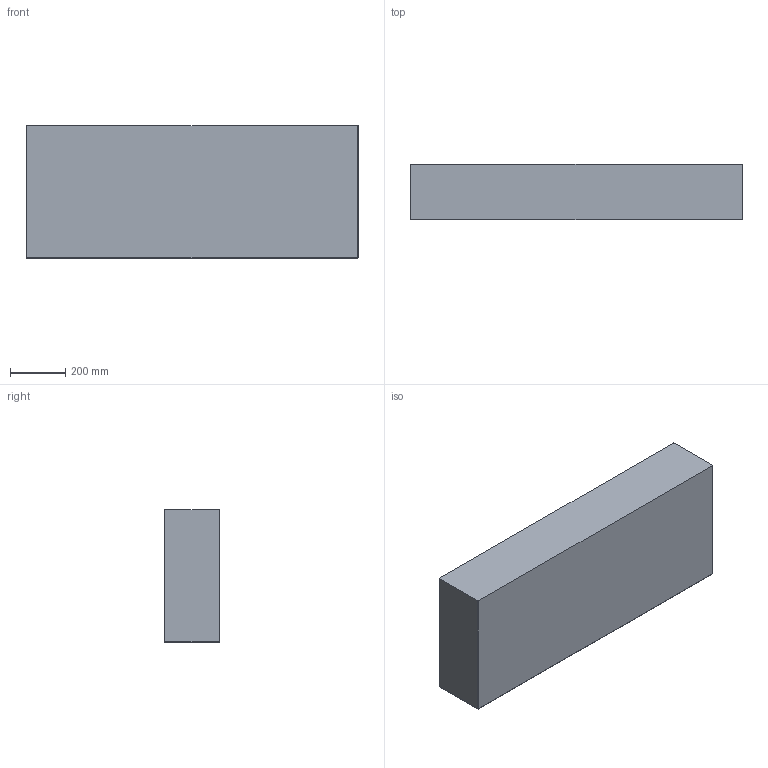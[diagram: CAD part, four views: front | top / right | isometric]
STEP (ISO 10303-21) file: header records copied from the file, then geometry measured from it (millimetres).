
FILE_DESCRIPTION(('CATIA V5 STEP Exchange'),'2;1');
FILE_NAME('C:\Users\Luca\Downloads\mobili next\7523\3D_7523.stp','2023-01-31T14:17:10+00:00',('none'),('none'),'CATIA Version 5 Release 19 SP 5 (IN-10)','CATIA V5 STEP AP214','none');
FILE_SCHEMA(('AUTOMOTIVE_DESIGN { 1 0 10303 214 1 1 1 1 }'));
Length unit declared in the file: millimetre
Products named in the file (1): ART. 7523
Bounding box: 1200 x 200 x 480 mm (x, y, z)
Volume: 31136845.9 mm3; surface area: 3440416.8 mm2
Topology: 2 solids, 2 shells, 103 faces, 232 edges, 122 vertices
Faces by surface type: cylinder 40, plane 25, bspline 20, sphere 16, torus 2
Entity records: 3983 total; most frequent: CARTESIAN_POINT 1973, ORIENTED_EDGE 440, DIRECTION 319, EDGE_CURVE 220, AXIS2_PLACEMENT_3D 151, VERTEX_POINT 122, EDGE_LOOP 104, ADVANCED_FACE 103
